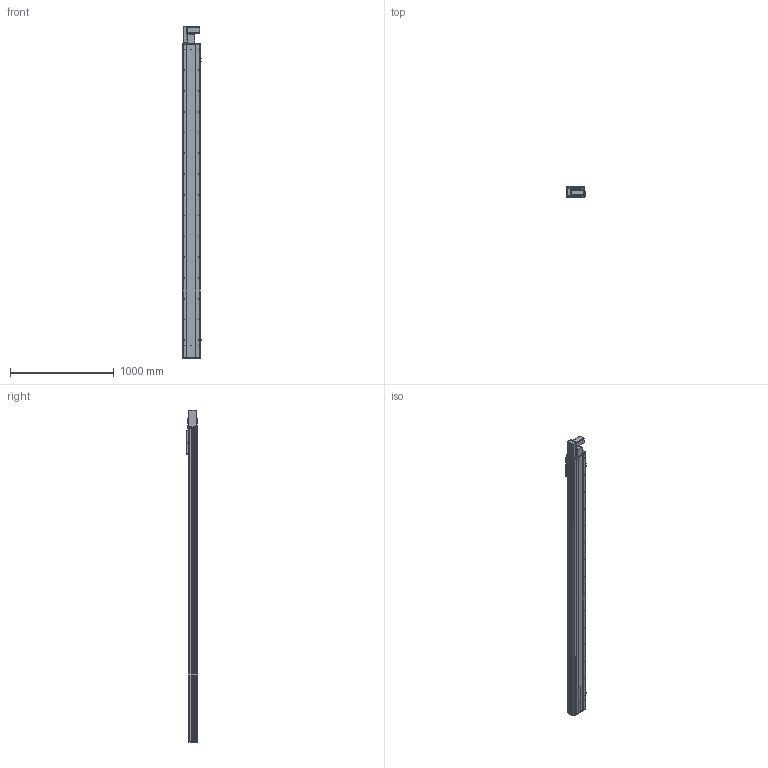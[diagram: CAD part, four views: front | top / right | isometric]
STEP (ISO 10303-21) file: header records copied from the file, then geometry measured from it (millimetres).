
FILE_DESCRIPTION (( 'STEP AP203' ), '1' );
FILE_NAME ('Y170CB-D105-S2700-BL-P400W.STEP', '2020-02-20T01:51:56', ( '微软用户' ), ( '微软中国' ), 'SwSTEP 2.0', 'SolidWorks 2017', '' );
FILE_SCHEMA (( 'CONFIG_CONTROL_DESIGN' ));
Length unit declared in the file: millimetre
Products named in the file (18): 0C--雄赽釱俋欶-170; san松下电机400不带刹车----; 70CB-詩湍--; Y70俋欶BR----; Y100-135俋离換覜ん--; 70CB-掛极-; Y170CB-陔俋离換覜結え---; --70CB --喘謫眊楊擘啣-; 70B喘謫眊----; 70CB-耜裔啣-; Y1埴倛裔; 70C--詩湍揤踡え-; B-源倛裔啣; Y170CB-D105-S2700-BL-P400W; 70CB--耜裔; 17B-耜蚾蟀諉啣----; 70C-雄赽釱-奻-; 0B-萇儂楊擘啣
Assembly tree (21 placements, depth 2):
  Y170CB-D105-S2700-BL-P400W
    B-源倛裔啣
    17B-耜蚾蟀諉啣----
    0B-萇儂楊擘啣
    san松下电机400不带刹车----
    Y70俋欶BR----
    70CB-掛极-
    --70CB --喘謫眊楊擘啣-
    70CB-耜裔啣-  x2
    70C--詩湍揤踡え-  x2
    70CB--耜裔
    70C-雄赽釱-奻-
    0C--雄赽釱俋欶-170
    70CB-詩湍--
    Y100-135俋离換覜ん--  x3
    Y170CB-陔俋离換覜結え---
    70B喘謫眊----
    Y1埴倛裔
Bounding box: 183.5 x 107 x 3197 mm (x, y, z)
Volume: 13230460.7 mm3; surface area: 4778563 mm2
Topology: 21 solids, 21 shells, 1079 faces, 2909 edges, 1930 vertices
Faces by surface type: cylinder 591, plane 464, cone 24
Entity records: 34656 total; most frequent: CARTESIAN_POINT 6396, DIRECTION 5638, ORIENTED_EDGE 5300, EDGE_CURVE 2650, AXIS2_PLACEMENT_3D 2084, VERTEX_POINT 1760, VECTOR 1470, LINE 1470
